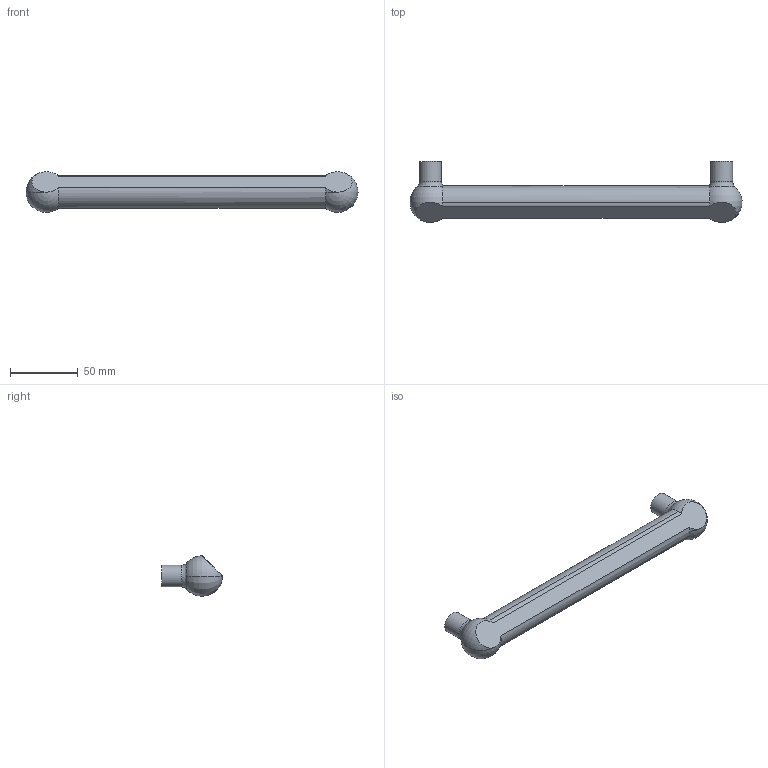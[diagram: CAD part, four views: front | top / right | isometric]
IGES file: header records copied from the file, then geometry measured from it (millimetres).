
Start section: Data from Parasolid IGES Translator 15.0.47, Copyright(c) 2006 Siemens P LM Software. All Rights Reserved.
Global section: file name: 9105766.igs; native system:  By UGS Corp.; preprocessor: XPlus GENERIC/IGES 3.0; author: Noname; organization: Noname; date: 20140122.155728; units: millimetre
Bounding box: 244.96 x 45 x 29.79 mm (x, y, z)
Surface area: 21053.1 mm2 (no closed solid volume)
Topology: 0 solids, 0 shells, 17 faces, 78 edges, 68 vertices
Faces by surface type: revolution 12, extrusion 5
